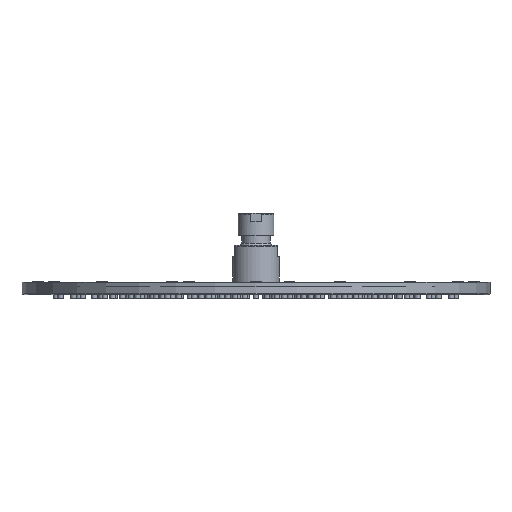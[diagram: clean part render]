
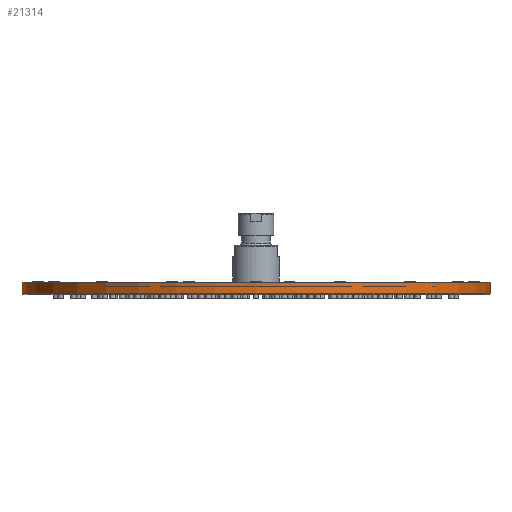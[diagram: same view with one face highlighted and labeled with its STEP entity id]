
A CAD part, front view. The second image highlights one B-rep face of the part: STEP entity #21314.
In plain terms, the highlighted cylindrical face has radius 150 mm (diameter 300 mm), a partial arc.
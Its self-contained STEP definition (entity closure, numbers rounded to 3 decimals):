
#1222 = DIRECTION ( 'NONE',  ( 0., 0., -1. ) ) ;
#1422 = CARTESIAN_POINT ( 'NONE',  ( 150., 0., 8. ) ) ;
#2994 = DIRECTION ( 'NONE',  ( 0., 0., 1. ) ) ;
#4414 = FACE_OUTER_BOUND ( 'NONE', #11312, .T. ) ;
#4503 = CARTESIAN_POINT ( 'NONE',  ( 150., 0., 0.5 ) ) ;
#6716 = VERTEX_POINT ( 'NONE', #14489 ) ;
#8818 = DIRECTION ( 'NONE',  ( 0., 0., -1. ) ) ;
#11312 = EDGE_LOOP ( 'NONE', ( #24876, #26450, #23398, #28876 ) ) ;
#12202 = CARTESIAN_POINT ( 'NONE',  ( 0., 0., 8. ) ) ;
#12701 = CARTESIAN_POINT ( 'NONE',  ( 0., 0., 8. ) ) ;
#13612 = CARTESIAN_POINT ( 'NONE',  ( -150., 0., 8. ) ) ;
#14489 = CARTESIAN_POINT ( 'NONE',  ( -150., 0., 0.5 ) ) ;
#15483 = CIRCLE ( 'NONE', #46271, 150. ) ;
#16142 = VERTEX_POINT ( 'NONE', #13612 ) ;
#16606 = DIRECTION ( 'NONE',  ( 1., 0., 0. ) ) ;
#16712 = DIRECTION ( 'NONE',  ( 0., 0., -1. ) ) ;
#16822 = CYLINDRICAL_SURFACE ( 'NONE', #52631, 150. ) ;
#19703 = EDGE_CURVE ( 'NONE', #16142, #45938, #15483, .T. ) ;
#21314 = ADVANCED_FACE ( 'NONE', ( #4414 ), #16822, .T. ) ;
#21584 = LINE ( 'NONE', #25190, #50423 ) ;
#23398 = ORIENTED_EDGE ( 'NONE', *, *, #37918, .T. ) ;
#24876 = ORIENTED_EDGE ( 'NONE', *, *, #29587, .F. ) ;
#25190 = CARTESIAN_POINT ( 'NONE',  ( 150., 0., 8. ) ) ;
#25621 = DIRECTION ( 'NONE',  ( -1., 0., 0. ) ) ;
#26450 = ORIENTED_EDGE ( 'NONE', *, *, #19703, .F. ) ;
#27371 = AXIS2_PLACEMENT_3D ( 'NONE', #40708, #2994, #36575 ) ;
#28876 = ORIENTED_EDGE ( 'NONE', *, *, #41951, .T. ) ;
#29587 = EDGE_CURVE ( 'NONE', #45938, #32007, #21584, .T. ) ;
#32007 = VERTEX_POINT ( 'NONE', #4503 ) ;
#36163 = CIRCLE ( 'NONE', #27371, 150. ) ;
#36575 = DIRECTION ( 'NONE',  ( 1., 0., 0. ) ) ;
#37524 = DIRECTION ( 'NONE',  ( 0., 0., 1. ) ) ;
#37918 = EDGE_CURVE ( 'NONE', #16142, #6716, #41492, .T. ) ;
#40708 = CARTESIAN_POINT ( 'NONE',  ( 0., 0., 0.5 ) ) ;
#41492 = LINE ( 'NONE', #54433, #41949 ) ;
#41949 = VECTOR ( 'NONE', #16712, 1000. ) ;
#41951 = EDGE_CURVE ( 'NONE', #6716, #32007, #36163, .T. ) ;
#45938 = VERTEX_POINT ( 'NONE', #1422 ) ;
#46271 = AXIS2_PLACEMENT_3D ( 'NONE', #12202, #37524, #16606 ) ;
#50423 = VECTOR ( 'NONE', #1222, 1000. ) ;
#52631 = AXIS2_PLACEMENT_3D ( 'NONE', #12701, #8818, #25621 ) ;
#54433 = CARTESIAN_POINT ( 'NONE',  ( -150., 0., 8. ) ) ;
